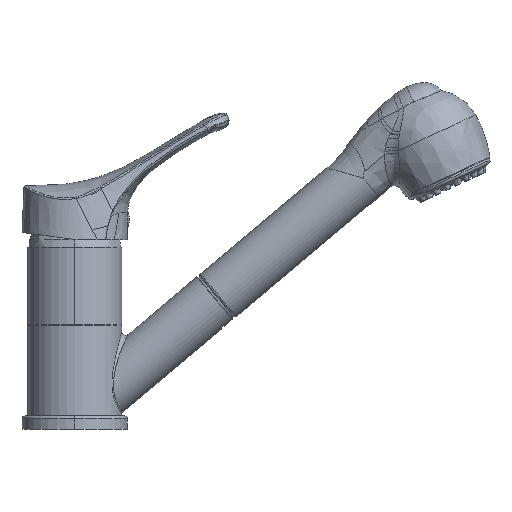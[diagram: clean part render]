
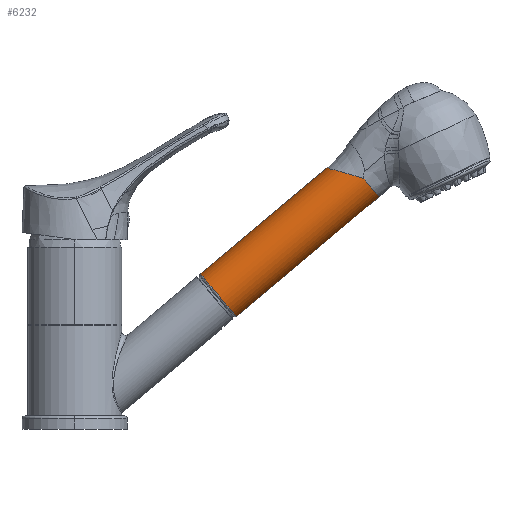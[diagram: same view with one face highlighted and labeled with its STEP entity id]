
A CAD part, left-side view. The second image highlights one B-rep face of the part: STEP entity #6232.
In plain terms, the highlighted cylindrical face has radius 14.5 mm (diameter 29 mm), a partial arc.
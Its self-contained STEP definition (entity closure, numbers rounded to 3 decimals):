
#889=CYLINDRICAL_SURFACE('',#14606,14.5);
#1064=B_SPLINE_CURVE_WITH_KNOTS('',3,(#17680,#17681,#17682,#17683,#17684,
#17685,#17686,#17687,#17688,#17689),.UNSPECIFIED.,.F.,.F.,(4,2,2,2,4),(0.,
0.25,0.5,0.75,1.),.UNSPECIFIED.);
#1065=B_SPLINE_CURVE_WITH_KNOTS('',3,(#17691,#17692,#17693,#17694,#17695,
#17696),.UNSPECIFIED.,.F.,.F.,(4,2,4),(0.,0.5,1.),.UNSPECIFIED.);
#1066=B_SPLINE_CURVE_WITH_KNOTS('',3,(#17698,#17699,#17700,#17701,#17702,
#17703,#17704,#17705,#17706,#17707,#17708,#17709,#17710,#17711,#17712,#17713,
#17714,#17715,#17716,#17717,#17718,#17719,#17720,#17721,#17722,#17723,#17724,
#17725,#17726,#17727,#17728,#17729,#17730,#17731,#17732,#17733,#17734,#17735,
#17736,#17737,#17738,#17739,#17740,#17741,#17742,#17743,#17744,#17745),
 .UNSPECIFIED.,.F.,.F.,(4,2,2,2,2,2,2,2,2,1,2,2,2,2,2,1,1,2,2,2,2,2,1,2,
2,4),(0.,0.125,0.187,0.219,0.234,
0.25,0.375,0.437,0.469,
0.484,0.492,0.5,0.625,
0.687,0.719,0.734,0.742,
0.746,0.75,0.812,0.844,
0.859,0.867,0.871,0.875,
1.),.UNSPECIFIED.);
#1992=LINE('',#17175,#2407);
#1993=LINE('',#17224,#2408);
#2407=VECTOR('',#15289,1.);
#2408=VECTOR('',#15290,1.);
#6232=ADVANCED_FACE('',(#7046),#889,.T.);
#7046=FACE_OUTER_BOUND('',#7696,.T.);
#7696=EDGE_LOOP('',(#8502,#8503,#8504,#8505,#8506));
#8502=ORIENTED_EDGE('',*,*,#12698,.F.);
#8503=ORIENTED_EDGE('',*,*,#12705,.T.);
#8504=ORIENTED_EDGE('',*,*,#12706,.T.);
#8505=ORIENTED_EDGE('',*,*,#12695,.F.);
#8506=ORIENTED_EDGE('',*,*,#12704,.F.);
#11676=VERTEX_POINT('',#17176);
#11677=VERTEX_POINT('',#17177);
#11679=VERTEX_POINT('',#17223);
#11680=VERTEX_POINT('',#17225);
#11683=VERTEX_POINT('',#17697);
#12695=EDGE_CURVE('',#11676,#11677,#1992,.T.);
#12698=EDGE_CURVE('',#11679,#11680,#1993,.T.);
#12704=EDGE_CURVE('',#11680,#11676,#1064,.T.);
#12705=EDGE_CURVE('',#11679,#11683,#1065,.T.);
#12706=EDGE_CURVE('',#11683,#11677,#1066,.T.);
#14606=AXIS2_PLACEMENT_3D('',#17746,#15297,#15298);
#15289=DIRECTION('',(0.,-0.766,0.643));
#15290=DIRECTION('',(0.,0.766,-0.643));
#15297=DIRECTION('',(0.,-0.766,0.643));
#15298=DIRECTION('',(0.,0.643,0.766));
#17175=CARTESIAN_POINT('',(0.,36.004,134.118));
#17176=CARTESIAN_POINT('',(0.,73.268,102.85));
#17177=CARTESIAN_POINT('',(0.,7.333,158.176));
#17223=CARTESIAN_POINT('',(0.,-19.901,143.171));
#17224=CARTESIAN_POINT('',(0.,17.364,111.902));
#17225=CARTESIAN_POINT('',(0.,54.627,80.634));
#17680=CARTESIAN_POINT('',(0.,54.628,80.634));
#17681=CARTESIAN_POINT('',(-3.796,54.628,80.634));
#17682=CARTESIAN_POINT('',(-7.569,55.632,81.831));
#17683=CARTESIAN_POINT('',(-12.937,59.083,85.944));
#17684=CARTESIAN_POINT('',(-14.5,61.508,88.834));
#17685=CARTESIAN_POINT('',(-14.5,66.388,94.65));
#17686=CARTESIAN_POINT('',(-12.937,68.813,97.54));
#17687=CARTESIAN_POINT('',(-7.569,72.264,101.652));
#17688=CARTESIAN_POINT('',(-3.796,73.268,102.849));
#17689=CARTESIAN_POINT('',(0.,73.268,102.85));
#17691=CARTESIAN_POINT('',(0.,-19.901,143.171));
#17692=CARTESIAN_POINT('',(-3.439,-19.901,143.171));
#17693=CARTESIAN_POINT('',(-6.863,-19.083,144.146));
#17694=CARTESIAN_POINT('',(-12.072,-16.197,147.586));
#17695=CARTESIAN_POINT('',(-13.835,-14.14,150.036));
#17696=CARTESIAN_POINT('',(-14.342,-11.954,152.642));
#17697=CARTESIAN_POINT('',(-14.342,-11.954,152.642));
#17698=CARTESIAN_POINT('',(-14.342,-11.954,152.642));
#17699=CARTESIAN_POINT('',(-14.362,-11.776,152.669));
#17700=CARTESIAN_POINT('',(-14.394,-11.508,152.739));
#17701=CARTESIAN_POINT('',(-14.442,-10.972,152.907));
#17702=CARTESIAN_POINT('',(-14.458,-10.77,152.973));
#17703=CARTESIAN_POINT('',(-14.477,-10.434,153.09));
#17704=CARTESIAN_POINT('',(-14.483,-10.317,153.131));
#17705=CARTESIAN_POINT('',(-14.49,-10.132,153.197));
#17706=CARTESIAN_POINT('',(-14.492,-10.069,153.22));
#17707=CARTESIAN_POINT('',(-14.496,-9.94,153.267));
#17708=CARTESIAN_POINT('',(-14.498,-9.84,153.303));
#17709=CARTESIAN_POINT('',(-14.502,-9.538,153.414));
#17710=CARTESIAN_POINT('',(-14.505,-9.087,153.565));
#17711=CARTESIAN_POINT('',(-14.448,-8.138,153.866));
#17712=CARTESIAN_POINT('',(-14.419,-7.777,153.979));
#17713=CARTESIAN_POINT('',(-14.347,-7.168,154.166));
#17714=CARTESIAN_POINT('',(-14.319,-6.955,154.23));
#17715=CARTESIAN_POINT('',(-14.268,-6.617,154.332));
#17716=CARTESIAN_POINT('',(-14.24,-6.445,154.383));
#17717=CARTESIAN_POINT('',(-14.208,-6.266,154.436));
#17718=CARTESIAN_POINT('',(-14.187,-6.146,154.472));
#17719=CARTESIAN_POINT('',(-14.183,-6.126,154.478));
#17720=CARTESIAN_POINT('',(-13.851,-4.377,154.991));
#17721=CARTESIAN_POINT('',(-13.365,-2.987,155.386));
#17722=CARTESIAN_POINT('',(-12.605,-1.276,155.854));
#17723=CARTESIAN_POINT('',(-12.346,-0.768,155.99));
#17724=CARTESIAN_POINT('',(-11.968,-0.095,156.17));
#17725=CARTESIAN_POINT('',(-11.844,0.115,156.226));
#17726=CARTESIAN_POINT('',(-11.663,0.409,156.305));
#17727=CARTESIAN_POINT('',(-11.574,0.55,156.343));
#17728=CARTESIAN_POINT('',(-11.472,0.706,156.385));
#17729=CARTESIAN_POINT('',(-11.429,0.771,156.403));
#17730=CARTESIAN_POINT('',(-11.4,0.814,156.415));
#17731=CARTESIAN_POINT('',(-11.412,0.797,156.41));
#17732=CARTESIAN_POINT('',(-10.737,1.797,156.684));
#17733=CARTESIAN_POINT('',(-10.044,2.621,156.908));
#17734=CARTESIAN_POINT('',(-8.965,3.687,157.196));
#17735=CARTESIAN_POINT('',(-8.599,4.014,157.284));
#17736=CARTESIAN_POINT('',(-8.045,4.463,157.406));
#17737=CARTESIAN_POINT('',(-7.86,4.606,157.445));
#17738=CARTESIAN_POINT('',(-7.581,4.81,157.501));
#17739=CARTESIAN_POINT('',(-7.441,4.909,157.528));
#17740=CARTESIAN_POINT('',(-7.302,5.005,157.554));
#17741=CARTESIAN_POINT('',(-7.209,5.068,157.572));
#17742=CARTESIAN_POINT('',(-7.186,5.083,157.576));
#17743=CARTESIAN_POINT('',(-4.852,6.619,158.004));
#17744=CARTESIAN_POINT('',(-2.36,7.333,158.176));
#17745=CARTESIAN_POINT('',(0.,7.333,158.176));
#17746=CARTESIAN_POINT('',(0.,26.684,123.01));
